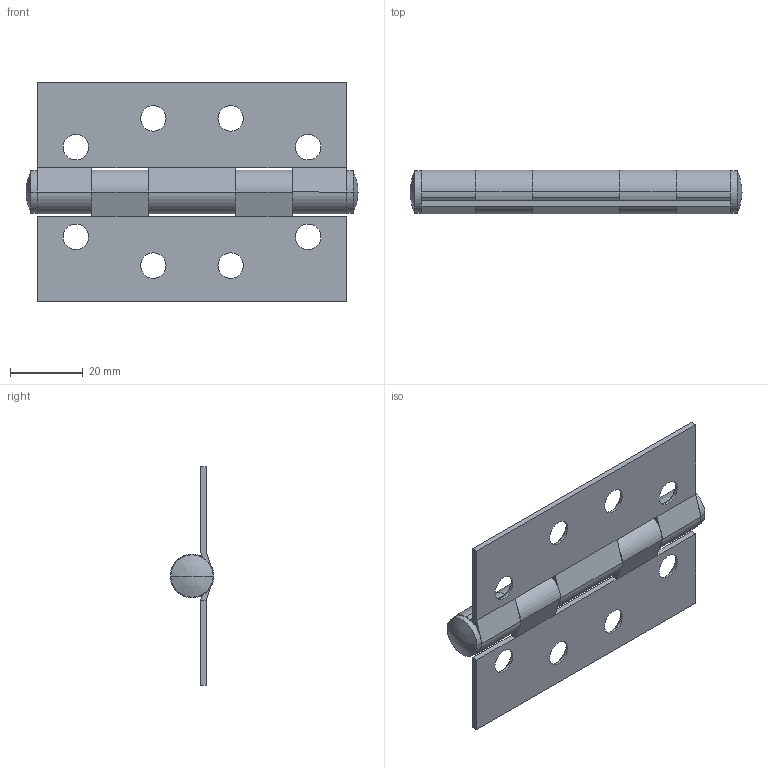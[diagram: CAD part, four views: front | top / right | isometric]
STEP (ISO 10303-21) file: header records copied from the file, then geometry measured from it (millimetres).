
FILE_DESCRIPTION (( 'STEP AP203' ), '1' );
FILE_NAME ('SBF85BS_1.STEP', '2020-05-27T06:28:46', ( '' ), ( '' ), 'SwSTEP 2.0', 'SolidWorks 2016', '' );
FILE_SCHEMA (( 'CONFIG_CONTROL_DESIGN' ));
Length unit declared in the file: millimetre
Products named in the file (4): PinSBF85BS; SBF85BS; SBF85BS_Cover_2; SBF85BS_1
Assembly tree (3 placements, depth 2):
  SBF85BS_1
    SBF85BS_Cover_2
    SBF85BS
    PinSBF85BS
Bounding box: 91.11 x 12 x 60 mm (x, y, z)
Volume: 13947.2 mm3; surface area: 16641.7 mm2
Topology: 3 solids, 3 shells, 112 faces, 282 edges, 174 vertices
Faces by surface type: cylinder 52, plane 40, cone 16, bspline 4
Entity records: 3804 total; most frequent: DIRECTION 622, CARTESIAN_POINT 622, ORIENTED_EDGE 556, EDGE_CURVE 278, AXIS2_PLACEMENT_3D 234, VERTEX_POINT 174, VECTOR 154, LINE 154
